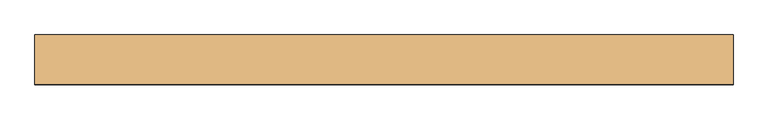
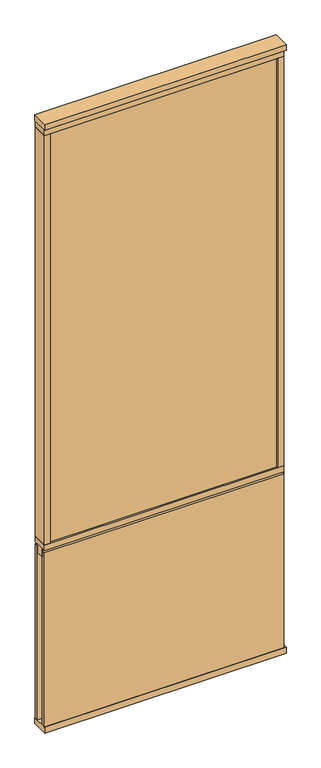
"""IFC4 building model written with IfcOpenShell, lengths in millimetres: door geometry, Mobiliário_Mobiliário de Escritório_Painel Misto Vidro Duplo - ADT E ADL (Complementar)_Marelli : ADT - Temperado."""

from ifc_helpers import new_model, si_unit, frame, origin, origin_with_axes, place, context, project, spatial, polyline, outline, extrude, source, transform, mapped, element, save


def door_22fe3487(model_context):
    return source(origin(), model_context, "Body", "SweptSolid", [
        extrude(outline(polyline([(600.0, 42.5), (600.0, -42.5), (-600.0, -42.5), (-600.0, 42.5), (600.0, 42.5)])), origin_with_axes(), (0.0, 0.0, 1.0), 30.0),
        extrude(outline(polyline([(590.0, 39.5), (590.0, 21.5), (-600.0, 21.5), (-600.0, 39.5), (590.0, 39.5)])), frame((0.0, 0.0, 30.0), z_axis=(0.0, 0.0, 1.0), x_axis=(1.0, 0.0, 0.0)), (0.0, 0.0, 1.0), 916.5),
        extrude(outline(polyline([(590.0, 21.5), (590.0, -21.5), (-600.0, -21.5), (-600.0, 21.5), (590.0, 21.5)])), frame((0.0, 0.0, 913.5), z_axis=(0.0, 0.0, 1.0), x_axis=(1.0, 0.0, 0.0)), (0.0, 0.0, 1.0), 43.0),
        extrude(outline(polyline([(590.0, -39.5), (-600.0, -39.5), (-600.0, -21.5), (590.0, -21.5), (590.0, -39.5)])), frame((0.0, 0.0, 30.0), z_axis=(0.0, 0.0, 1.0), x_axis=(1.0, 0.0, 0.0)), (0.0, 0.0, 1.0), 916.5),
        extrude(outline(polyline([(590.0, 39.5), (590.0, -39.5), (-600.0, -39.5), (-600.0, 39.5), (590.0, 39.5)])), frame((0.0, 0.0, 956.5), z_axis=(0.0, 0.0, 1.0), x_axis=(1.0, 0.0, 0.0)), (0.0, 0.0, 1.0), 30.0),
        extrude(outline(polyline([(600.0, 42.5), (600.0, -42.5), (-600.0, -42.5), (-600.0, 42.5), (600.0, 42.5)])), frame((0.0, 0.0, 3170.0), z_axis=(0.0, 0.0, 1.0), x_axis=(1.0, 0.0, 0.0)), (0.0, 0.0, 1.0), 30.0),
        extrude(outline(polyline([(590.0, 39.5), (590.0, -39.5), (-600.0, -39.5), (-600.0, 39.5), (590.0, 39.5)])), frame((0.0, 0.0, 3140.0), z_axis=(0.0, 0.0, 1.0), x_axis=(1.0, 0.0, 0.0)), (0.0, 0.0, 1.0), 30.0),
        extrude(outline(polyline([(600.0, -21.5), (590.0, -21.5), (590.0, 21.5), (600.0, 21.5), (600.0, -21.5)])), frame((0.0, 0.0, 30.0), z_axis=(0.0, 0.0, 1.0), x_axis=(1.0, 0.0, 0.0)), (0.0, 0.0, 1.0), 3140.0),
        extrude(outline(polyline([(-570.0, 39.5), (-570.0, -39.5), (-600.0, -39.5), (-600.0, 39.5), (-570.0, 39.5)])), frame((0.0, 0.0, 986.5), z_axis=(0.0, 0.0, 1.0), x_axis=(1.0, 0.0, 0.0)), (0.0, 0.0, 1.0), 2153.5),
        extrude(outline(polyline([(560.0, 39.5), (590.0, 39.5), (590.0, -39.5), (560.0, -39.5), (560.0, 39.5)])), frame((0.0, 0.0, 986.5), z_axis=(0.0, 0.0, 1.0), x_axis=(1.0, 0.0, 0.0)), (0.0, 0.0, 1.0), 2153.5),
        extrude(outline(polyline([(560.0, 31.0), (560.0, 25.0), (-570.0, 25.0), (-570.0, 31.0), (560.0, 31.0)])), frame((0.0, 0.0, 986.5), z_axis=(0.0, 0.0, 1.0), x_axis=(1.0, 0.0, 0.0)), (0.0, 0.0, 1.0), 2153.5),
        extrude(outline(polyline([(560.0, -25.0), (560.0, -31.0), (-570.0, -31.0), (-570.0, -25.0), (560.0, -25.0)])), frame((0.0, 0.0, 986.5), z_axis=(0.0, 0.0, 1.0), x_axis=(1.0, 0.0, 0.0)), (0.0, 0.0, 1.0), 2153.5),
    ])


if __name__ == "__main__":
    model = new_model("IFC4")
    model_context = context("Model", 3, world=origin())
    ifc_project = project(units=[si_unit("LENGTHUNIT", "METRE", prefix="MILLI")], contexts=[model_context])
    site = spatial("IfcSite", under=ifc_project)
    building = spatial("IfcBuilding", under=site)
    placement = place(None, origin())
    door_shape = door_22fe3487(model_context)
    element("IfcDoor", 1, ObjectType="Mobiliário_Mobiliário de Escritório_Painel Misto Vidro Duplo - ADT E ADL (Complementar)_Marelli : ADT - Temperado", at=placement, inside=building, context=model_context, shape_type="MappedRepresentation", body=[
        mapped(door_shape, transform((0.0, 0.0, 0.0), x_axis=(1.0, 0.0, 0.0), y_axis=(0.0, 1.0, 0.0), z_axis=(0.0, 0.0, 1.0))),
    ])
    save(model, "model.ifc")
